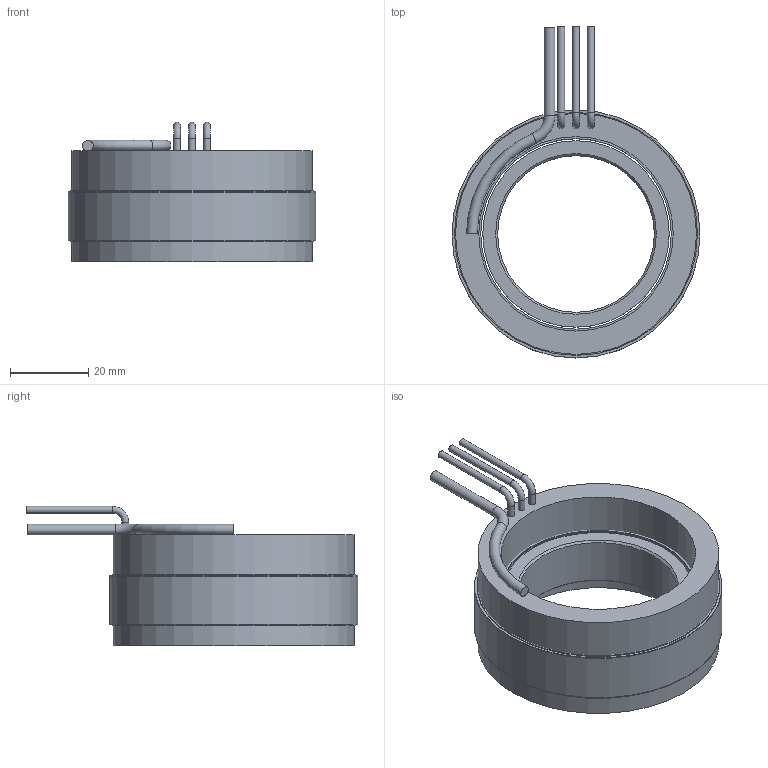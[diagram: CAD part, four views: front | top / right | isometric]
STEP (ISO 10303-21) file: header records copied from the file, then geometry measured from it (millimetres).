
FILE_DESCRIPTION (( 'STEP AP214' ), '1' );
FILE_NAME ('6100391-01.STEP', '2020-12-15T01:30:42', ( '' ), ( '' ), 'SwSTEP 2.0', 'SolidWorks 2016', '' );
FILE_SCHEMA (( 'AUTOMOTIVE_DESIGN' ));
Length unit declared in the file: inch
Products named in the file (10): 4150178-XX_4150178-01; 4500558-XX_4500558-01; 4250379-XX_4250379-01; COMP4500558-XX(COIL)_COMP4500558-01(COIL); 4600565-00; 6100391-01; 4450189-XX_4450189-01; 4400101-00
Assembly tree (10 placements, depth 4):
  6100391-01
    4250379-XX_4250379-01
      4150178-XX_4150178-01
    4500558-XX_4500558-01
      4450189-XX_4450189-01
        4450189-XX_4450189-01
        4400101-00
        4400101-00
        4600565-00  x2
      COMP4500558-XX(COIL)_COMP4500558-01(COIL)
Bounding box: 63.5 x 84.96 x 35.69 mm (x, y, z)
Volume: 54063.8 mm3; surface area: 34726.2 mm2
Topology: 8 solids, 8 shells, 47 faces, 74 edges, 46 vertices
Faces by surface type: cylinder 21, plane 19, torus 5, cone 2
Full cylindrical faces by diameter (mm): 1.778 x6, 2.72 x1, 40.132 x1, 47.752 x1, 48.768 x5, 49.783 x1, 61.722 x1, 62.23 x2, 63.5 x3
Entity records: 1305 total; most frequent: DIRECTION 202, CARTESIAN_POINT 143, AXIS2_PLACEMENT_3D 101, ORIENTED_EDGE 84, EDGE_LOOP 84, FACE_OUTER_BOUND 67, ADVANCED_FACE 43, EDGE_CURVE 42
